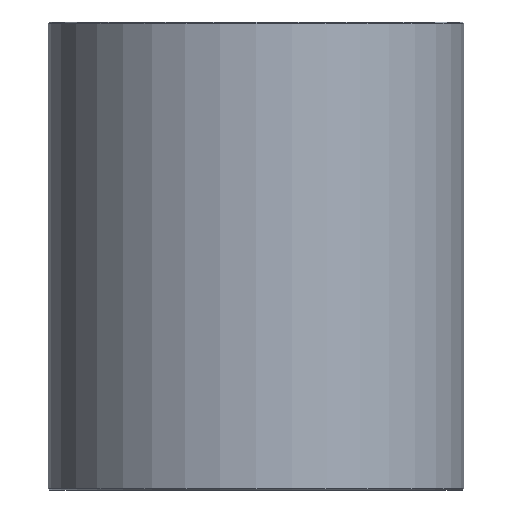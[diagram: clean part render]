
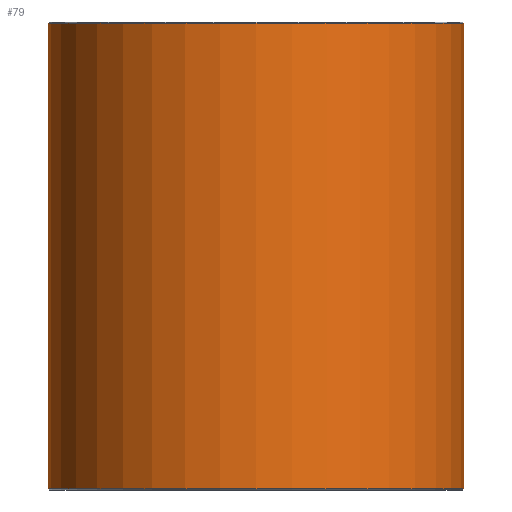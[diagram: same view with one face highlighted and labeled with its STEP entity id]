
A CAD part, front view. The second image highlights one B-rep face of the part: STEP entity #79.
In plain terms, the highlighted cylindrical face has radius 35.5 mm (diameter 71 mm), a full revolution.
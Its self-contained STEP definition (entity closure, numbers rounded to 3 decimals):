
#79=ADVANCED_FACE('',(#96,#97),#98,.T.);
#96=FACE_OUTER_BOUND('',#120,.T.);
#97=FACE_OUTER_BOUND('',#121,.T.);
#98=CYLINDRICAL_SURFACE('',#122,35.5);
#120=EDGE_LOOP('',(#152));
#121=EDGE_LOOP('',(#153));
#122=AXIS2_PLACEMENT_3D('',#154,#155,#156);
#152=ORIENTED_EDGE('',*,*,#178,.T.);
#153=ORIENTED_EDGE('',*,*,#177,.T.);
#154=CARTESIAN_POINT('',(0.0,0.0,80.0));
#155=DIRECTION('',(0.0,0.0,-1.0));
#156=DIRECTION('',(-1.0,0.0,0.0));
#177=EDGE_CURVE('',#190,#190,#191,.T.);
#178=EDGE_CURVE('',#192,#192,#193,.F.);
#190=VERTEX_POINT('',#206);
#191=CIRCLE('',#207,35.5);
#192=VERTEX_POINT('',#208);
#193=CIRCLE('',#209,35.5);
#206=CARTESIAN_POINT('',(35.5,0.0,0.2));
#207=AXIS2_PLACEMENT_3D('',#227,#228,#229);
#208=CARTESIAN_POINT('',(35.5,0.,79.8));
#209=AXIS2_PLACEMENT_3D('',#230,#231,#232);
#227=CARTESIAN_POINT('',(0.0,0.0,0.2));
#228=DIRECTION('',(0.0,0.0,1.0));
#229=DIRECTION('',(1.0,0.0,0.0));
#230=CARTESIAN_POINT('',(0.0,0.0,79.8));
#231=DIRECTION('',(0.0,0.0,1.0));
#232=DIRECTION('',(1.0,0.0,0.0));
